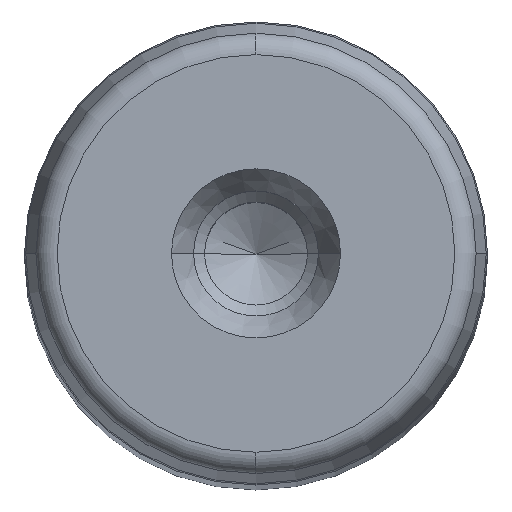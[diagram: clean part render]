
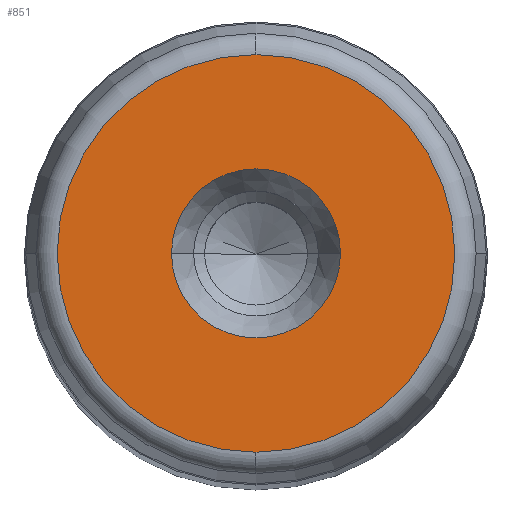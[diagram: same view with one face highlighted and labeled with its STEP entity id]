
A CAD part, top view. The second image highlights one B-rep face of the part: STEP entity #851.
In plain terms, the highlighted planar face has unit normal (0, 0, 1) as drawn and (0, 1, 0) by its records, which use the part's own axes.
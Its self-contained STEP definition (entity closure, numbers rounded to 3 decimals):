
#281=CARTESIAN_POINT('',(11.5,400.0,0.0));
#282=VERTEX_POINT('',#281);
#289=CARTESIAN_POINT('',(-11.5,400.0,0.));
#290=VERTEX_POINT('',#289);
#291=CARTESIAN_POINT('',(0.0,400.0,0.0));
#292=DIRECTION('',(0.0,1.0,0.0));
#293=DIRECTION('',(1.0,0.0,0.0));
#294=AXIS2_PLACEMENT_3D('',#291,#292,#293);
#295=CIRCLE('',#294,11.5);
#296=EDGE_CURVE('',#282,#290,#295,.T.);
#313=CARTESIAN_POINT('',(0.0,400.0,27.054));
#314=VERTEX_POINT('',#313);
#324=CARTESIAN_POINT('',(0.,400.0,-27.054));
#325=VERTEX_POINT('',#324);
#326=CARTESIAN_POINT('',(0.0,400.0,0.0));
#327=DIRECTION('',(0.0,1.0,0.0));
#328=DIRECTION('',(1.0,0.0,0.0));
#329=AXIS2_PLACEMENT_3D('',#326,#327,#328);
#330=CIRCLE('',#329,27.054);
#331=EDGE_CURVE('',#325,#314,#330,.T.);
#812=CARTESIAN_POINT('',(27.054,400.0,0.0));
#813=VERTEX_POINT('',#812);
#814=CARTESIAN_POINT('',(0.0,400.0,0.0));
#815=DIRECTION('',(0.0,1.0,0.0));
#816=DIRECTION('',(1.0,0.0,0.0));
#817=AXIS2_PLACEMENT_3D('',#814,#815,#816);
#818=CIRCLE('',#817,27.054);
#819=EDGE_CURVE('',#813,#325,#818,.T.);
#821=CARTESIAN_POINT('',(0.0,400.0,0.0));
#822=DIRECTION('',(0.0,1.0,0.0));
#823=DIRECTION('',(1.0,0.0,0.0));
#824=AXIS2_PLACEMENT_3D('',#821,#822,#823);
#825=CIRCLE('',#824,27.054);
#826=EDGE_CURVE('',#314,#813,#825,.T.);
#831=CARTESIAN_POINT('',(-29.76,400.0,-29.76));
#832=DIRECTION('',(0.0,1.0,0.0));
#833=DIRECTION('',(0.0,0.0,1.0));
#834=AXIS2_PLACEMENT_3D('',#831,#832,#833);
#835=PLANE('',#834);
#836=ORIENTED_EDGE('',*,*,#819,.T.);
#837=ORIENTED_EDGE('',*,*,#331,.T.);
#838=ORIENTED_EDGE('',*,*,#826,.T.);
#839=EDGE_LOOP('',(#836,#837,#838));
#840=FACE_OUTER_BOUND('',#839,.T.);
#841=ORIENTED_EDGE('',*,*,#296,.F.);
#842=CARTESIAN_POINT('',(0.0,400.0,0.0));
#843=DIRECTION('',(0.0,1.0,0.0));
#844=DIRECTION('',(1.0,0.0,0.0));
#845=AXIS2_PLACEMENT_3D('',#842,#843,#844);
#846=CIRCLE('',#845,11.5);
#847=EDGE_CURVE('',#290,#282,#846,.T.);
#848=ORIENTED_EDGE('',*,*,#847,.F.);
#849=EDGE_LOOP('',(#841,#848));
#850=FACE_BOUND('',#849,.T.);
#851=ADVANCED_FACE('',(#840,#850),#835,.T.);
